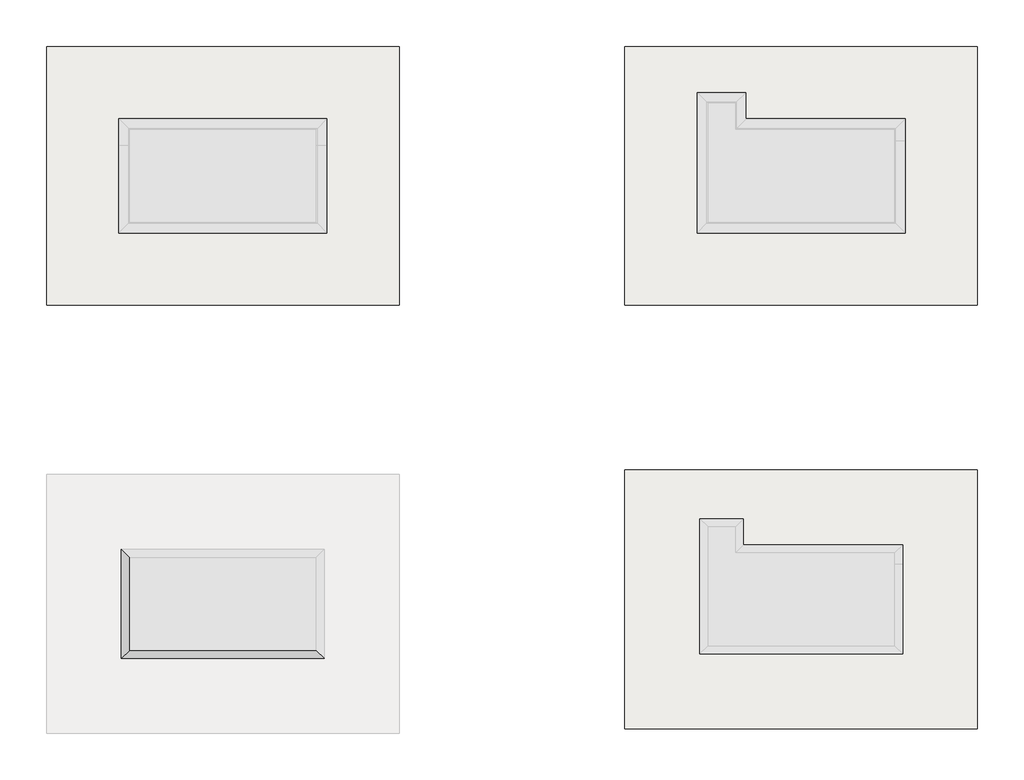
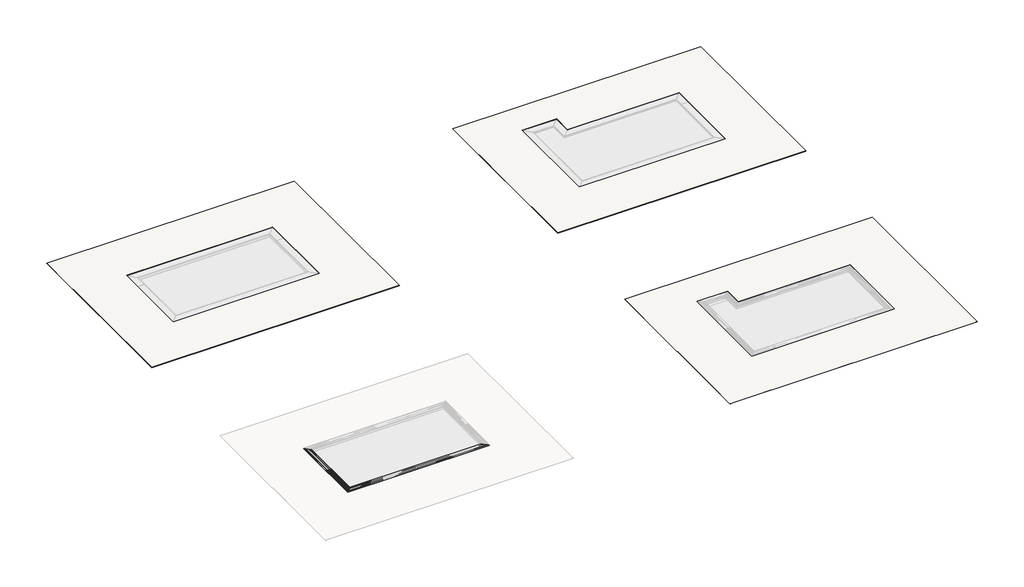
# One storey, part 3 of 8: 13 slabs, 3 proxies.
"""IFC4 building model written with IfcOpenShell, lengths in millimetres."""

from ifc_helpers import new_model, si_unit, frame, origin, place, context, project, spatial, polyline, outline, extrude, faceted_brep, element, save

model = new_model("IFC4")

# Units and contexts
model_context = context("Model", 3, world=origin())
ifc_project = project(units=[si_unit("LENGTHUNIT", "METRE", prefix="MILLI")], contexts=[model_context])

# Site, building, storey
site = spatial("IfcSite", under=ifc_project)
building = spatial("IfcBuilding", under=site)
storey = spatial("IfcBuildingStorey", under=building, Name="EXAGRES_Serie YOHO_Piscinas_ejemplo", Elevation=0.0)

# Proxies
placement = place(None, origin())
element("IfcBuildingElementProxy", 1, Name="Wall Sweeps", at=placement, inside=storey, context=model_context, shape_type="Brep", body=[
    faceted_brep([(-4806.8495187, -26613.0065757, 0.0), (-4819.8495187, -26600.0065757, 0.0), (-4819.8495187, -26600.0065757, 33.0), (-4489.8495187, -26930.0065757, 33.0), (-4489.8495187, -26930.0065757, 21.0), (-4495.8495187, -26924.0065757, 21.0), (-4495.8495187, -26924.0065757, 22.0), (-4499.8495187, -26920.0065757, 22.0), (-4499.8495187, -26920.0065757, 21.0), (-4505.8495187, -26914.0065757, 21.0), (-4505.8495187, -26914.0065757, 22.0), (-4509.8495187, -26910.0065757, 22.0), (-4509.8495187, -26910.0065757, 21.0), (-4515.8495187, -26904.0065757, 21.0), (-4515.8495187, -26904.0065757, 22.0), (-4519.8495187, -26900.0065757, 22.0), (-4519.8495187, -26900.0065757, 21.0), (-4525.8495187, -26894.0065757, 21.0), (-4525.8495187, -26894.0065757, 22.0), (-4529.8495187, -26890.0065757, 22.0), (-4529.8495187, -26890.0065757, 21.0), (-4535.8495187, -26884.0065757, 21.0), (-4535.8495187, -26884.0065757, 22.0), (-4539.8495187, -26880.0065757, 22.0), (-4539.8495187, -26880.0065757, 21.0), (-4545.8495187, -26874.0065757, 21.0), (-4545.8495187, -26874.0065757, 22.0), (-4549.8495187, -26870.0065757, 22.0), (-4549.8495187, -26870.0065757, 21.0), (-4555.8495187, -26864.0065757, 21.0), (-4555.8495187, -26864.0065757, 22.0), (-4559.8495187, -26860.0065757, 22.0), (-4559.8495187, -26860.0065757, 21.0), (-4565.8495187, -26854.0065757, 21.0), (-4565.8495187, -26854.0065757, 22.0), (-4569.8495187, -26850.0065757, 22.0), (-4569.8495187, -26850.0065757, 21.0), (-4575.8495187, -26844.0065757, 21.0), (-4575.8495187, -26844.0065757, 22.0), (-4579.8495187, -26840.0065757, 22.0), (-4579.8495187, -26840.0065757, 21.0), (-4585.8495187, -26834.0065757, 21.0), (-4585.8495187, -26834.0065757, 22.0), (-4589.8495187, -26830.0065757, 22.0), (-4589.8495187, -26830.0065757, 21.0), (-4595.8495187, -26824.0065757, 21.0), (-4595.8495187, -26824.0065757, 22.0), (-4599.8495187, -26820.0065757, 22.0), (-4599.8495187, -26820.0065757, 21.0), (-4605.8495187, -26814.0065757, 21.0), (-4605.8495187, -26814.0065757, 22.0), (-4609.8495187, -26810.0065757, 22.0), (-4609.8495187, -26810.0065757, 21.0), (-4615.8495187, -26804.0065757, 21.0), (-4615.8495187, -26804.0065757, 22.0), (-4619.8495187, -26800.0065757, 22.0), (-4619.8495187, -26800.0065757, 21.0), (-4625.8495187, -26794.0065757, 21.0), (-4625.8495187, -26794.0065757, 22.0), (-4629.8495187, -26790.0065757, 22.0), (-4629.8495187, -26790.0065757, 21.0), (-4635.8495187, -26784.0065757, 21.0), (-4635.8495187, -26784.0065757, 22.0), (-4639.8495187, -26780.0065757, 22.0), (-4639.8495187, -26780.0065757, 21.0), (-4645.8495187, -26774.0065757, 21.0), (-4645.8495187, -26774.0065757, 22.0), (-4649.8495187, -26770.0065757, 22.0), (-4649.8495187, -26770.0065757, 21.0), (-4655.8495187, -26764.0065757, 21.0), (-4655.8495187, -26764.0065757, 22.0), (-4659.8495187, -26760.0065757, 22.0), (-4659.8495187, -26760.0065757, 21.0), (-4665.8495187, -26754.0065757, 21.0), (-4665.8495187, -26754.0065757, 22.0), (-4669.8495187, -26750.0065757, 22.0), (-4669.8495187, -26750.0065757, 21.0), (-4675.8495187, -26744.0065757, 21.0), (-4675.8495187, -26744.0065757, 22.0), (-4679.8495187, -26740.0065757, 22.0), (-4679.8495187, -26740.0065757, 21.0), (-4685.8495187, -26734.0065757, 21.0), (-4685.8495187, -26734.0065757, 22.0), (-4689.8495187, -26730.0065757, 22.0), (-4689.8495187, -26730.0065757, 21.0), (-4695.8495187, -26724.0065757, 21.0), (-4695.8495187, -26724.0065757, 22.0), (-4699.8495187, -26720.0065757, 22.0), (-4699.8495187, -26720.0065757, 21.0), (-4705.8495187, -26714.0065757, 21.0), (-4705.8495187, -26714.0065757, 22.0), (-4709.8495187, -26710.0065757, 22.0), (-4709.8495187, -26710.0065757, 21.0), (-4715.8495187, -26704.0065757, 21.0), (-4715.8495187, -26704.0065757, 22.0), (-4719.8495187, -26700.0065757, 22.0), (-4719.8495187, -26700.0065757, 21.0), (-4725.8495187, -26694.0065757, 21.0), (-4725.8495187, -26694.0065757, 22.0), (-4729.8495187, -26690.0065757, 22.0), (-4729.8495187, -26690.0065757, 21.0), (-4735.8495187, -26684.0065757, 21.0), (-4735.8495187, -26684.0065757, 22.0), (-4739.8495187, -26680.0065757, 22.0), (-4739.8495187, -26680.0065757, 21.0), (-4745.8495187, -26674.0065757, 21.0), (-4745.8495187, -26674.0065757, 22.0), (-4749.8495187, -26670.0065757, 22.0), (-4749.8495187, -26670.0065757, 21.0), (-4755.8495187, -26664.0065757, 21.0), (-4755.8495187, -26664.0065757, 22.0), (-4759.8495187, -26660.0065757, 22.0), (-4759.8495187, -26660.0065757, 21.0), (-4765.8495187, -26654.0065757, 21.0), (-4765.8495187, -26654.0065757, 22.0), (-4769.8495187, -26650.0065757, 22.0), (-4769.8495187, -26650.0065757, 21.0), (-4775.8495187, -26644.0065757, 21.0), (-4775.8495187, -26644.0065757, 22.0), (-4779.8495187, -26640.0065757, 22.0), (-4779.8495187, -26640.0065757, 21.0), (-4785.8495187, -26634.0065757, 21.0), (-4785.8495187, -26634.0065757, 22.0), (-4789.8495187, -26630.0065757, 22.0), (-4789.8495187, -26630.0065757, 21.0), (-4795.8495187, -26624.0065757, 21.0), (-4795.8495187, -26624.0065757, 22.0), (-4799.8495187, -26620.0065757, 22.0), (-4799.8495187, -26620.0065757, 21.0), (-4806.8495187, -26613.0065757, 21.0), (-4806.8495187, -26613.0065757, 14.0), (-4807.8495187, -26612.0065757, 14.0), (-4807.8495187, -26612.0065757, 8.0), (-4806.8495187, -26613.0065757, 8.0), (-12832.8495187, -26613.0065757, 0.0), (-12832.8495187, -26613.0065757, 8.0), (-12831.8495187, -26612.0065757, 8.0), (-12831.8495187, -26612.0065757, 14.0), (-12832.8495187, -26613.0065757, 14.0), (-12832.8495187, -26613.0065757, 21.0), (-12839.8495187, -26620.0065757, 21.0), (-12839.8495187, -26620.0065757, 22.0), (-12843.8495187, -26624.0065757, 22.0), (-12843.8495187, -26624.0065757, 21.0), (-12849.8495187, -26630.0065757, 21.0), (-12849.8495187, -26630.0065757, 22.0), (-12853.8495187, -26634.0065757, 22.0), (-12853.8495187, -26634.0065757, 21.0), (-12859.8495187, -26640.0065757, 21.0), (-12859.8495187, -26640.0065757, 22.0), (-12863.8495187, -26644.0065757, 22.0), (-12863.8495187, -26644.0065757, 21.0), (-12869.8495187, -26650.0065757, 21.0), (-12869.8495187, -26650.0065757, 22.0), (-12873.8495187, -26654.0065757, 22.0), (-12873.8495187, -26654.0065757, 21.0), (-12879.8495187, -26660.0065757, 21.0), (-12879.8495187, -26660.0065757, 22.0), (-12883.8495187, -26664.0065757, 22.0), (-12883.8495187, -26664.0065757, 21.0), (-12889.8495187, -26670.0065757, 21.0), (-12889.8495187, -26670.0065757, 22.0), (-12893.8495187, -26674.0065757, 22.0), (-12893.8495187, -26674.0065757, 21.0), (-12899.8495187, -26680.0065757, 21.0), (-12899.8495187, -26680.0065757, 22.0), (-12903.8495187, -26684.0065757, 22.0), (-12903.8495187, -26684.0065757, 21.0), (-12909.8495187, -26690.0065757, 21.0), (-12909.8495187, -26690.0065757, 22.0), (-12913.8495187, -26694.0065757, 22.0), (-12913.8495187, -26694.0065757, 21.0), (-12919.8495187, -26700.0065757, 21.0), (-12919.8495187, -26700.0065757, 22.0), (-12923.8495187, -26704.0065757, 22.0), (-12923.8495187, -26704.0065757, 21.0), (-12929.8495187, -26710.0065757, 21.0), (-12929.8495187, -26710.0065757, 22.0), (-12933.8495187, -26714.0065757, 22.0), (-12933.8495187, -26714.0065757, 21.0), (-12939.8495187, -26720.0065757, 21.0), (-12939.8495187, -26720.0065757, 22.0), (-12943.8495187, -26724.0065757, 22.0), (-12943.8495187, -26724.0065757, 21.0), (-12949.8495187, -26730.0065757, 21.0), (-12949.8495187, -26730.0065757, 22.0), (-12953.8495187, -26734.0065757, 22.0), (-12953.8495187, -26734.0065757, 21.0), (-12959.8495187, -26740.0065757, 21.0), (-12959.8495187, -26740.0065757, 22.0), (-12963.8495187, -26744.0065757, 22.0), (-12963.8495187, -26744.0065757, 21.0), (-12969.8495187, -26750.0065757, 21.0), (-12969.8495187, -26750.0065757, 22.0), (-12973.8495187, -26754.0065757, 22.0), (-12973.8495187, -26754.0065757, 21.0), (-12979.8495187, -26760.0065757, 21.0), (-12979.8495187, -26760.0065757, 22.0), (-12983.8495187, -26764.0065757, 22.0), (-12983.8495187, -26764.0065757, 21.0), (-12989.8495187, -26770.0065757, 21.0), (-12989.8495187, -26770.0065757, 22.0), (-12993.8495187, -26774.0065757, 22.0), (-12993.8495187, -26774.0065757, 21.0), (-12999.8495187, -26780.0065757, 21.0), (-12999.8495187, -26780.0065757, 22.0), (-13003.8495187, -26784.0065757, 22.0), (-13003.8495187, -26784.0065757, 21.0), (-13009.8495187, -26790.0065757, 21.0), (-13009.8495187, -26790.0065757, 22.0), (-13013.8495187, -26794.0065757, 22.0), (-13013.8495187, -26794.0065757, 21.0), (-13019.8495187, -26800.0065757, 21.0), (-13019.8495187, -26800.0065757, 22.0), (-13023.8495187, -26804.0065757, 22.0), (-13023.8495187, -26804.0065757, 21.0), (-13029.8495187, -26810.0065757, 21.0), (-13029.8495187, -26810.0065757, 22.0), (-13033.8495187, -26814.0065757, 22.0), (-13033.8495187, -26814.0065757, 21.0), (-13039.8495187, -26820.0065757, 21.0), (-13039.8495187, -26820.0065757, 22.0), (-13043.8495187, -26824.0065757, 22.0), (-13043.8495187, -26824.0065757, 21.0), (-13049.8495187, -26830.0065757, 21.0), (-13049.8495187, -26830.0065757, 22.0), (-13053.8495187, -26834.0065757, 22.0), (-13053.8495187, -26834.0065757, 21.0), (-13059.8495187, -26840.0065757, 21.0), (-13059.8495187, -26840.0065757, 22.0), (-13063.8495187, -26844.0065757, 22.0), (-13063.8495187, -26844.0065757, 21.0), (-13069.8495187, -26850.0065757, 21.0), (-13069.8495187, -26850.0065757, 22.0), (-13073.8495187, -26854.0065757, 22.0), (-13073.8495187, -26854.0065757, 21.0), (-13079.8495187, -26860.0065757, 21.0), (-13079.8495187, -26860.0065757, 22.0), (-13083.8495187, -26864.0065757, 22.0), (-13083.8495187, -26864.0065757, 21.0), (-13089.8495187, -26870.0065757, 21.0), (-13089.8495187, -26870.0065757, 22.0), (-13093.8495187, -26874.0065757, 22.0), (-13093.8495187, -26874.0065757, 21.0), (-13099.8495187, -26880.0065757, 21.0), (-13099.8495187, -26880.0065757, 22.0), (-13103.8495187, -26884.0065757, 22.0), (-13103.8495187, -26884.0065757, 21.0), (-13109.8495187, -26890.0065757, 21.0), (-13109.8495187, -26890.0065757, 22.0), (-13113.8495187, -26894.0065757, 22.0), (-13113.8495187, -26894.0065757, 21.0), (-13119.8495187, -26900.0065757, 21.0), (-13119.8495187, -26900.0065757, 22.0), (-13123.8495187, -26904.0065757, 22.0), (-13123.8495187, -26904.0065757, 21.0), (-13129.8495187, -26910.0065757, 21.0), (-13129.8495187, -26910.0065757, 22.0), (-13133.8495187, -26914.0065757, 22.0), (-13133.8495187, -26914.0065757, 21.0), (-13139.8495187, -26920.0065757, 21.0), (-13139.8495187, -26920.0065757, 22.0), (-13143.8495187, -26924.0065757, 22.0), (-13143.8495187, -26924.0065757, 21.0), (-13149.8495187, -26930.0065757, 21.0), (-13149.8495187, -26930.0065757, 33.0), (-12819.8495187, -26600.0065757, 33.0), (-12819.8495187, -26600.0065757, 0.0)], [[[0, 1, 2, 3, 4, 5, 6, 7, 8, 9, 10, 11, 12, 13, 14, 15, 16, 17, 18, 19, 20, 21, 22, 23, 24, 25, 26, 27, 28, 29, 30, 31, 32, 33, 34, 35, 36, 37, 38, 39, 40, 41, 42, 43, 44, 45, 46, 47, 48, 49, 50, 51, 52, 53, 54, 55, 56, 57, 58, 59, 60, 61, 62, 63, 64, 65, 66, 67, 68, 69, 70, 71, 72, 73, 74, 75, 76, 77, 78, 79, 80, 81, 82, 83, 84, 85, 86, 87, 88, 89, 90, 91, 92, 93, 94, 95, 96, 97, 98, 99, 100, 101, 102, 103, 104, 105, 106, 107, 108, 109, 110, 111, 112, 113, 114, 115, 116, 117, 118, 119, 120, 121, 122, 123, 124, 125, 126, 127, 128, 129, 130, 131, 132, 133]], [[134, 135, 136, 137, 138, 139, 140, 141, 142, 143, 144, 145, 146, 147, 148, 149, 150, 151, 152, 153, 154, 155, 156, 157, 158, 159, 160, 161, 162, 163, 164, 165, 166, 167, 168, 169, 170, 171, 172, 173, 174, 175, 176, 177, 178, 179, 180, 181, 182, 183, 184, 185, 186, 187, 188, 189, 190, 191, 192, 193, 194, 195, 196, 197, 198, 199, 200, 201, 202, 203, 204, 205, 206, 207, 208, 209, 210, 211, 212, 213, 214, 215, 216, 217, 218, 219, 220, 221, 222, 223, 224, 225, 226, 227, 228, 229, 230, 231, 232, 233, 234, 235, 236, 237, 238, 239, 240, 241, 242, 243, 244, 245, 246, 247, 248, 249, 250, 251, 252, 253, 254, 255, 256, 257, 258, 259, 260, 261, 262, 263, 264, 265, 266, 267]], [[1, 0, 134, 267]], [[2, 1, 267, 266]], [[3, 2, 266, 265]], [[4, 3, 265, 264]], [[5, 4, 264, 263]], [[6, 5, 263, 262]], [[7, 6, 262, 261]], [[8, 7, 261, 260]], [[9, 8, 260, 259]], [[10, 9, 259, 258]], [[11, 10, 258, 257]], [[12, 11, 257, 256]], [[13, 12, 256, 255]], [[14, 13, 255, 254]], [[15, 14, 254, 253]], [[16, 15, 253, 252]], [[17, 16, 252, 251]], [[18, 17, 251, 250]], [[19, 18, 250, 249]], [[20, 19, 249, 248]], [[21, 20, 248, 247]], [[22, 21, 247, 246]], [[23, 22, 246, 245]], [[24, 23, 245, 244]], [[25, 24, 244, 243]], [[26, 25, 243, 242]], [[27, 26, 242, 241]], [[28, 27, 241, 240]], [[29, 28, 240, 239]], [[30, 29, 239, 238]], [[31, 30, 238, 237]], [[32, 31, 237, 236]], [[33, 32, 236, 235]], [[34, 33, 235, 234]], [[35, 34, 234, 233]], [[36, 35, 233, 232]], [[37, 36, 232, 231]], [[38, 37, 231, 230]], [[39, 38, 230, 229]], [[40, 39, 229, 228]], [[41, 40, 228, 227]], [[42, 41, 227, 226]], [[43, 42, 226, 225]], [[44, 43, 225, 224]], [[45, 44, 224, 223]], [[46, 45, 223, 222]], [[47, 46, 222, 221]], [[48, 47, 221, 220]], [[49, 48, 220, 219]], [[50, 49, 219, 218]], [[51, 50, 218, 217]], [[52, 51, 217, 216]], [[53, 52, 216, 215]], [[54, 53, 215, 214]], [[55, 54, 214, 213]], [[56, 55, 213, 212]], [[57, 56, 212, 211]], [[58, 57, 211, 210]], [[59, 58, 210, 209]], [[60, 59, 209, 208]], [[61, 60, 208, 207]], [[62, 61, 207, 206]], [[63, 62, 206, 205]], [[64, 63, 205, 204]], [[65, 64, 204, 203]], [[66, 65, 203, 202]], [[67, 66, 202, 201]], [[68, 67, 201, 200]], [[69, 68, 200, 199]], [[70, 69, 199, 198]], [[71, 70, 198, 197]], [[72, 71, 197, 196]], [[73, 72, 196, 195]], [[74, 73, 195, 194]], [[75, 74, 194, 193]], [[76, 75, 193, 192]], [[77, 76, 192, 191]], [[78, 77, 191, 190]], [[79, 78, 190, 189]], [[80, 79, 189, 188]], [[81, 80, 188, 187]], [[82, 81, 187, 186]], [[83, 82, 186, 185]], [[84, 83, 185, 184]], [[85, 84, 184, 183]], [[86, 85, 183, 182]], [[87, 86, 182, 181]], [[88, 87, 181, 180]], [[89, 88, 180, 179]], [[90, 89, 179, 178]], [[91, 90, 178, 177]], [[92, 91, 177, 176]], [[93, 92, 176, 175]], [[94, 93, 175, 174]], [[95, 94, 174, 173]], [[96, 95, 173, 172]], [[97, 96, 172, 171]], [[98, 97, 171, 170]], [[99, 98, 170, 169]], [[100, 99, 169, 168]], [[101, 100, 168, 167]], [[102, 101, 167, 166]], [[103, 102, 166, 165]], [[104, 103, 165, 164]], [[105, 104, 164, 163]], [[106, 105, 163, 162]], [[107, 106, 162, 161]], [[108, 107, 161, 160]], [[109, 108, 160, 159]], [[110, 109, 159, 158]], [[111, 110, 158, 157]], [[112, 111, 157, 156]], [[113, 112, 156, 155]], [[114, 113, 155, 154]], [[115, 114, 154, 153]], [[116, 115, 153, 152]], [[117, 116, 152, 151]], [[118, 117, 151, 150]], [[119, 118, 150, 149]], [[120, 119, 149, 148]], [[121, 120, 148, 147]], [[122, 121, 147, 146]], [[123, 122, 146, 145]], [[124, 123, 145, 144]], [[125, 124, 144, 143]], [[126, 125, 143, 142]], [[127, 126, 142, 141]], [[128, 127, 141, 140]], [[129, 128, 140, 139]], [[130, 129, 139, 138]], [[131, 130, 138, 137]], [[132, 131, 137, 136]], [[133, 132, 136, 135]], [[0, 133, 135, 134]]]),
])
element("IfcBuildingElementProxy", 2, Name="Wall Sweeps", at=placement, inside=storey, context=model_context, shape_type="Brep", body=[
    faceted_brep([(-12832.8495187, -26613.0065757, 0.0), (-12819.8495187, -26600.0065757, 0.0), (-12819.8495187, -26600.0065757, 33.0), (-13149.8495187, -26930.0065757, 33.0), (-13149.8495187, -26930.0065757, 21.0), (-13143.8495187, -26924.0065757, 21.0), (-13143.8495187, -26924.0065757, 22.0), (-13139.8495187, -26920.0065757, 22.0), (-13139.8495187, -26920.0065757, 21.0), (-13133.8495187, -26914.0065757, 21.0), (-13133.8495187, -26914.0065757, 22.0), (-13129.8495187, -26910.0065757, 22.0), (-13129.8495187, -26910.0065757, 21.0), (-13123.8495187, -26904.0065757, 21.0), (-13123.8495187, -26904.0065757, 22.0), (-13119.8495187, -26900.0065757, 22.0), (-13119.8495187, -26900.0065757, 21.0), (-13113.8495187, -26894.0065757, 21.0), (-13113.8495187, -26894.0065757, 22.0), (-13109.8495187, -26890.0065757, 22.0), (-13109.8495187, -26890.0065757, 21.0), (-13103.8495187, -26884.0065757, 21.0), (-13103.8495187, -26884.0065757, 22.0), (-13099.8495187, -26880.0065757, 22.0), (-13099.8495187, -26880.0065757, 21.0), (-13093.8495187, -26874.0065757, 21.0), (-13093.8495187, -26874.0065757, 22.0), (-13089.8495187, -26870.0065757, 22.0), (-13089.8495187, -26870.0065757, 21.0), (-13083.8495187, -26864.0065757, 21.0), (-13083.8495187, -26864.0065757, 22.0), (-13079.8495187, -26860.0065757, 22.0), (-13079.8495187, -26860.0065757, 21.0), (-13073.8495187, -26854.0065757, 21.0), (-13073.8495187, -26854.0065757, 22.0), (-13069.8495187, -26850.0065757, 22.0), (-13069.8495187, -26850.0065757, 21.0), (-13063.8495187, -26844.0065757, 21.0), (-13063.8495187, -26844.0065757, 22.0), (-13059.8495187, -26840.0065757, 22.0), (-13059.8495187, -26840.0065757, 21.0), (-13053.8495187, -26834.0065757, 21.0), (-13053.8495187, -26834.0065757, 22.0), (-13049.8495187, -26830.0065757, 22.0), (-13049.8495187, -26830.0065757, 21.0), (-13043.8495187, -26824.0065757, 21.0), (-13043.8495187, -26824.0065757, 22.0), (-13039.8495187, -26820.0065757, 22.0), (-13039.8495187, -26820.0065757, 21.0), (-13033.8495187, -26814.0065757, 21.0), (-13033.8495187, -26814.0065757, 22.0), (-13029.8495187, -26810.0065757, 22.0), (-13029.8495187, -26810.0065757, 21.0), (-13023.8495187, -26804.0065757, 21.0), (-13023.8495187, -26804.0065757, 22.0), (-13019.8495187, -26800.0065757, 22.0), (-13019.8495187, -26800.0065757, 21.0), (-13013.8495187, -26794.0065757, 21.0), (-13013.8495187, -26794.0065757, 22.0), (-13009.8495187, -26790.0065757, 22.0), (-13009.8495187, -26790.0065757, 21.0), (-13003.8495187, -26784.0065757, 21.0), (-13003.8495187, -26784.0065757, 22.0), (-12999.8495187, -26780.0065757, 22.0), (-12999.8495187, -26780.0065757, 21.0), (-12993.8495187, -26774.0065757, 21.0), (-12993.8495187, -26774.0065757, 22.0), (-12989.8495187, -26770.0065757, 22.0), (-12989.8495187, -26770.0065757, 21.0), (-12983.8495187, -26764.0065757, 21.0), (-12983.8495187, -26764.0065757, 22.0), (-12979.8495187, -26760.0065757, 22.0), (-12979.8495187, -26760.0065757, 21.0), (-12973.8495187, -26754.0065757, 21.0), (-12973.8495187, -26754.0065757, 22.0), (-12969.8495187, -26750.0065757, 22.0), (-12969.8495187, -26750.0065757, 21.0), (-12963.8495187, -26744.0065757, 21.0), (-12963.8495187, -26744.0065757, 22.0), (-12959.8495187, -26740.0065757, 22.0), (-12959.8495187, -26740.0065757, 21.0), (-12953.8495187, -26734.0065757, 21.0), (-12953.8495187, -26734.0065757, 22.0), (-12949.8495187, -26730.0065757, 22.0), (-12949.8495187, -26730.0065757, 21.0), (-12943.8495187, -26724.0065757, 21.0), (-12943.8495187, -26724.0065757, 22.0), (-12939.8495187, -26720.0065757, 22.0), (-12939.8495187, -26720.0065757, 21.0), (-12933.8495187, -26714.0065757, 21.0), (-12933.8495187, -26714.0065757, 22.0), (-12929.8495187, -26710.0065757, 22.0), (-12929.8495187, -26710.0065757, 21.0), (-12923.8495187, -26704.0065757, 21.0), (-12923.8495187, -26704.0065757, 22.0), (-12919.8495187, -26700.0065757, 22.0), (-12919.8495187, -26700.0065757, 21.0), (-12913.8495187, -26694.0065757, 21.0), (-12913.8495187, -26694.0065757, 22.0), (-12909.8495187, -26690.0065757, 22.0), (-12909.8495187, -26690.0065757, 21.0), (-12903.8495187, -26684.0065757, 21.0), (-12903.8495187, -26684.0065757, 22.0), (-12899.8495187, -26680.0065757, 22.0), (-12899.8495187, -26680.0065757, 21.0), (-12893.8495187, -26674.0065757, 21.0), (-12893.8495187, -26674.0065757, 22.0), (-12889.8495187, -26670.0065757, 22.0), (-12889.8495187, -26670.0065757, 21.0), (-12883.8495187, -26664.0065757, 21.0), (-12883.8495187, -26664.0065757, 22.0), (-12879.8495187, -26660.0065757, 22.0), (-12879.8495187, -26660.0065757, 21.0), (-12873.8495187, -26654.0065757, 21.0), (-12873.8495187, -26654.0065757, 22.0), (-12869.8495187, -26650.0065757, 22.0), (-12869.8495187, -26650.0065757, 21.0), (-12863.8495187, -26644.0065757, 21.0), (-12863.8495187, -26644.0065757, 22.0), (-12859.8495187, -26640.0065757, 22.0), (-12859.8495187, -26640.0065757, 21.0), (-12853.8495187, -26634.0065757, 21.0), (-12853.8495187, -26634.0065757, 22.0), (-12849.8495187, -26630.0065757, 22.0), (-12849.8495187, -26630.0065757, 21.0), (-12843.8495187, -26624.0065757, 21.0), (-12843.8495187, -26624.0065757, 22.0), (-12839.8495187, -26620.0065757, 22.0), (-12839.8495187, -26620.0065757, 21.0), (-12832.8495187, -26613.0065757, 21.0), (-12832.8495187, -26613.0065757, 14.0), (-12831.8495187, -26612.0065757, 14.0), (-12831.8495187, -26612.0065757, 8.0), (-12832.8495187, -26613.0065757, 8.0), (-12832.8495187, -22587.0065757, 0.0), (-12832.8495187, -22587.0065757, 8.0), (-12831.8495187, -22588.0065757, 8.0), (-12831.8495187, -22588.0065757, 14.0), (-12832.8495187, -22587.0065757, 14.0), (-12832.8495187, -22587.0065757, 21.0), (-12839.8495187, -22580.0065757, 21.0), (-12839.8495187, -22580.0065757, 22.0), (-12843.8495187, -22576.0065757, 22.0), (-12843.8495187, -22576.0065757, 21.0), (-12849.8495187, -22570.0065757, 21.0), (-12849.8495187, -22570.0065757, 22.0), (-12853.8495187, -22566.0065757, 22.0), (-12853.8495187, -22566.0065757, 21.0), (-12859.8495187, -22560.0065757, 21.0), (-12859.8495187, -22560.0065757, 22.0), (-12863.8495187, -22556.0065757, 22.0), (-12863.8495187, -22556.0065757, 21.0), (-12869.8495187, -22550.0065757, 21.0), (-12869.8495187, -22550.0065757, 22.0), (-12873.8495187, -22546.0065757, 22.0), (-12873.8495187, -22546.0065757, 21.0), (-12879.8495187, -22540.0065757, 21.0), (-12879.8495187, -22540.0065757, 22.0), (-12883.8495187, -22536.0065757, 22.0), (-12883.8495187, -22536.0065757, 21.0), (-12889.8495187, -22530.0065757, 21.0), (-12889.8495187, -22530.0065757, 22.0), (-12893.8495187, -22526.0065757, 22.0), (-12893.8495187, -22526.0065757, 21.0), (-12899.8495187, -22520.0065757, 21.0), (-12899.8495187, -22520.0065757, 22.0), (-12903.8495187, -22516.0065757, 22.0), (-12903.8495187, -22516.0065757, 21.0), (-12909.8495187, -22510.0065757, 21.0), (-12909.8495187, -22510.0065757, 22.0), (-12913.8495187, -22506.0065757, 22.0), (-12913.8495187, -22506.0065757, 21.0), (-12919.8495187, -22500.0065757, 21.0), (-12919.8495187, -22500.0065757, 22.0), (-12923.8495187, -22496.0065757, 22.0), (-12923.8495187, -22496.0065757, 21.0), (-12929.8495187, -22490.0065757, 21.0), (-12929.8495187, -22490.0065757, 22.0), (-12933.8495187, -22486.0065757, 22.0), (-12933.8495187, -22486.0065757, 21.0), (-12939.8495187, -22480.0065757, 21.0), (-12939.8495187, -22480.0065757, 22.0), (-12943.8495187, -22476.0065757, 22.0), (-12943.8495187, -22476.0065757, 21.0), (-12949.8495187, -22470.0065757, 21.0), (-12949.8495187, -22470.0065757, 22.0), (-12953.8495187, -22466.0065757, 22.0), (-12953.8495187, -22466.0065757, 21.0), (-12959.8495187, -22460.0065757, 21.0), (-12959.8495187, -22460.0065757, 22.0), (-12963.8495187, -22456.0065757, 22.0), (-12963.8495187, -22456.0065757, 21.0), (-12969.8495187, -22450.0065757, 21.0), (-12969.8495187, -22450.0065757, 22.0), (-12973.8495187, -22446.0065757, 22.0), (-12973.8495187, -22446.0065757, 21.0), (-12979.8495187, -22440.0065757, 21.0), (-12979.8495187, -22440.0065757, 22.0), (-12983.8495187, -22436.0065757, 22.0), (-12983.8495187, -22436.0065757, 21.0), (-12989.8495187, -22430.0065757, 21.0), (-12989.8495187, -22430.0065757, 22.0), (-12993.8495187, -22426.0065757, 22.0), (-12993.8495187, -22426.0065757, 21.0), (-12999.8495187, -22420.0065757, 21.0), (-12999.8495187, -22420.0065757, 22.0), (-13003.8495187, -22416.0065757, 22.0), (-13003.8495187, -22416.0065757, 21.0), (-13009.8495187, -22410.0065757, 21.0), (-13009.8495187, -22410.0065757, 22.0), (-13013.8495187, -22406.0065757, 22.0), (-13013.8495187, -22406.0065757, 21.0), (-13019.8495187, -22400.0065757, 21.0), (-13019.8495187, -22400.0065757, 22.0), (-13023.8495187, -22396.0065757, 22.0), (-13023.8495187, -22396.0065757, 21.0), (-13029.8495187, -22390.0065757, 21.0), (-13029.8495187, -22390.0065757, 22.0), (-13033.8495187, -22386.0065757, 22.0), (-13033.8495187, -22386.0065757, 21.0), (-13039.8495187, -22380.0065757, 21.0), (-13039.8495187, -22380.0065757, 22.0), (-13043.8495187, -22376.0065757, 22.0), (-13043.8495187, -22376.0065757, 21.0), (-13049.8495187, -22370.0065757, 21.0), (-13049.8495187, -22370.0065757, 22.0), (-13053.8495187, -22366.0065757, 22.0), (-13053.8495187, -22366.0065757, 21.0), (-13059.8495187, -22360.0065757, 21.0), (-13059.8495187, -22360.0065757, 22.0), (-13063.8495187, -22356.0065757, 22.0), (-13063.8495187, -22356.0065757, 21.0), (-13069.8495187, -22350.0065757, 21.0), (-13069.8495187, -22350.0065757, 22.0), (-13073.8495187, -22346.0065757, 22.0), (-13073.8495187, -22346.0065757, 21.0), (-13079.8495187, -22340.0065757, 21.0), (-13079.8495187, -22340.0065757, 22.0), (-13083.8495187, -22336.0065757, 22.0), (-13083.8495187, -22336.0065757, 21.0), (-13089.8495187, -22330.0065757, 21.0), (-13089.8495187, -22330.0065757, 22.0), (-13093.8495187, -22326.0065757, 22.0), (-13093.8495187, -22326.0065757, 21.0), (-13099.8495187, -22320.0065757, 21.0), (-13099.8495187, -22320.0065757, 22.0), (-13103.8495187, -22316.0065757, 22.0), (-13103.8495187, -22316.0065757, 21.0), (-13109.8495187, -22310.0065757, 21.0), (-13109.8495187, -22310.0065757, 22.0), (-13113.8495187, -22306.0065757, 22.0), (-13113.8495187, -22306.0065757, 21.0), (-13119.8495187, -22300.0065757, 21.0), (-13119.8495187, -22300.0065757, 22.0), (-13123.8495187, -22296.0065757, 22.0), (-13123.8495187, -22296.0065757, 21.0), (-13129.8495187, -22290.0065757, 21.0), (-13129.8495187, -22290.0065757, 22.0), (-13133.8495187, -22286.0065757, 22.0), (-13133.8495187, -22286.0065757, 21.0), (-13139.8495187, -22280.0065757, 21.0), (-13139.8495187, -22280.0065757, 22.0), (-13143.8495187, -22276.0065757, 22.0), (-13143.8495187, -22276.0065757, 21.0), (-13149.8495187, -22270.0065757, 21.0), (-13149.8495187, -22270.0065757, 33.0), (-12819.8495187, -22600.0065757, 33.0), (-12819.8495187, -22600.0065757, 0.0)], [[[0, 1, 2, 3, 4, 5, 6, 7, 8, 9, 10, 11, 12, 13, 14, 15, 16, 17, 18, 19, 20, 21, 22, 23, 24, 25, 26, 27, 28, 29, 30, 31, 32, 33, 34, 35, 36, 37, 38, 39, 40, 41, 42, 43, 44, 45, 46, 47, 48, 49, 50, 51, 52, 53, 54, 55, 56, 57, 58, 59, 60, 61, 62, 63, 64, 65, 66, 67, 68, 69, 70, 71, 72, 73, 74, 75, 76, 77, 78, 79, 80, 81, 82, 83, 84, 85, 86, 87, 88, 89, 90, 91, 92, 93, 94, 95, 96, 97, 98, 99, 100, 101, 102, 103, 104, 105, 106, 107, 108, 109, 110, 111, 112, 113, 114, 115, 116, 117, 118, 119, 120, 121, 122, 123, 124, 125, 126, 127, 128, 129, 130, 131, 132, 133]], [[134, 135, 136, 137, 138, 139, 140, 141, 142, 143, 144, 145, 146, 147, 148, 149, 150, 151, 152, 153, 154, 155, 156, 157, 158, 159, 160, 161, 162, 163, 164, 165, 166, 167, 168, 169, 170, 171, 172, 173, 174, 175, 176, 177, 178, 179, 180, 181, 182, 183, 184, 185, 186, 187, 188, 189, 190, 191, 192, 193, 194, 195, 196, 197, 198, 199, 200, 201, 202, 203, 204, 205, 206, 207, 208, 209, 210, 211, 212, 213, 214, 215, 216, 217, 218, 219, 220, 221, 222, 223, 224, 225, 226, 227, 228, 229, 230, 231, 232, 233, 234, 235, 236, 237, 238, 239, 240, 241, 242, 243, 244, 245, 246, 247, 248, 249, 250, 251, 252, 253, 254, 255, 256, 257, 258, 259, 260, 261, 262, 263, 264, 265, 266, 267]], [[1, 0, 134, 267]], [[2, 1, 267, 266]], [[3, 2, 266, 265]], [[4, 3, 265, 264]], [[5, 4, 264, 263]], [[6, 5, 263, 262]], [[7, 6, 262, 261]], [[8, 7, 261, 260]], [[9, 8, 260, 259]], [[10, 9, 259, 258]], [[11, 10, 258, 257]], [[12, 11, 257, 256]], [[13, 12, 256, 255]], [[14, 13, 255, 254]], [[15, 14, 254, 253]], [[16, 15, 253, 252]], [[17, 16, 252, 251]], [[18, 17, 251, 250]], [[19, 18, 250, 249]], [[20, 19, 249, 248]], [[21, 20, 248, 247]], [[22, 21, 247, 246]], [[23, 22, 246, 245]], [[24, 23, 245, 244]], [[25, 24, 244, 243]], [[26, 25, 243, 242]], [[27, 26, 242, 241]], [[28, 27, 241, 240]], [[29, 28, 240, 239]], [[30, 29, 239, 238]], [[31, 30, 238, 237]], [[32, 31, 237, 236]], [[33, 32, 236, 235]], [[34, 33, 235, 234]], [[35, 34, 234, 233]], [[36, 35, 233, 232]], [[37, 36, 232, 231]], [[38, 37, 231, 230]], [[39, 38, 230, 229]], [[40, 39, 229, 228]], [[41, 40, 228, 227]], [[42, 41, 227, 226]], [[43, 42, 226, 225]], [[44, 43, 225, 224]], [[45, 44, 224, 223]], [[46, 45, 223, 222]], [[47, 46, 222, 221]], [[48, 47, 221, 220]], [[49, 48, 220, 219]], [[50, 49, 219, 218]], [[51, 50, 218, 217]], [[52, 51, 217, 216]], [[53, 52, 216, 215]], [[54, 53, 215, 214]], [[55, 54, 214, 213]], [[56, 55, 213, 212]], [[57, 56, 212, 211]], [[58, 57, 211, 210]], [[59, 58, 210, 209]], [[60, 59, 209, 208]], [[61, 60, 208, 207]], [[62, 61, 207, 206]], [[63, 62, 206, 205]], [[64, 63, 205, 204]], [[65, 64, 204, 203]], [[66, 65, 203, 202]], [[67, 66, 202, 201]], [[68, 67, 201, 200]], [[69, 68, 200, 199]], [[70, 69, 199, 198]], [[71, 70, 198, 197]], [[72, 71, 197, 196]], [[73, 72, 196, 195]], [[74, 73, 195, 194]], [[75, 74, 194, 193]], [[76, 75, 193, 192]], [[77, 76, 192, 191]], [[78, 77, 191, 190]], [[79, 78, 190, 189]], [[80, 79, 189, 188]], [[81, 80, 188, 187]], [[82, 81, 187, 186]], [[83, 82, 186, 185]], [[84, 83, 185, 184]], [[85, 84, 184, 183]], [[86, 85, 183, 182]], [[87, 86, 182, 181]], [[88, 87, 181, 180]], [[89, 88, 180, 179]], [[90, 89, 179, 178]], [[91, 90, 178, 177]], [[92, 91, 177, 176]], [[93, 92, 176, 175]], [[94, 93, 175, 174]], [[95, 94, 174, 173]], [[96, 95, 173, 172]], [[97, 96, 172, 171]], [[98, 97, 171, 170]], [[99, 98, 170, 169]], [[100, 99, 169, 168]], [[101, 100, 168, 167]], [[102, 101, 167, 166]], [[103, 102, 166, 165]], [[104, 103, 165, 164]], [[105, 104, 164, 163]], [[106, 105, 163, 162]], [[107, 106, 162, 161]], [[108, 107, 161, 160]], [[109, 108, 160, 159]], [[110, 109, 159, 158]], [[111, 110, 158, 157]], [[112, 111, 157, 156]], [[113, 112, 156, 155]], [[114, 113, 155, 154]], [[115, 114, 154, 153]], [[116, 115, 153, 152]], [[117, 116, 152, 151]], [[118, 117, 151, 150]], [[119, 118, 150, 149]], [[120, 119, 149, 148]], [[121, 120, 148, 147]], [[122, 121, 147, 146]], [[123, 122, 146, 145]], [[124, 123, 145, 144]], [[125, 124, 144, 143]], [[126, 125, 143, 142]], [[127, 126, 142, 141]], [[128, 127, 141, 140]], [[129, 128, 140, 139]], [[130, 129, 139, 138]], [[131, 130, 138, 137]], [[132, 131, 137, 136]], [[133, 132, 136, 135]], [[0, 133, 135, 134]]]),
])
element("IfcBuildingElementProxy", 3, Name="Wall Sweeps", at=placement, inside=storey, context=model_context, shape_type="Brep", body=[
    faceted_brep([(-13139.8495187, -26920.0065757, -181.26), (-13044.8495187, -26825.0065757, -181.26), (-12834.8495187, -26615.0065757, -181.26), (-12834.8495187, -26615.0065757, 0.0), (-12834.8495187, -26615.0065757, 18.74), (-13139.8495187, -26920.0065757, 18.74), (-13139.8495187, -22280.0065757, -181.26), (-13139.8495187, -22280.0065757, 18.74), (-12834.8495187, -22585.0065757, 18.74), (-12834.8495187, -22585.0065757, -181.26), (-12834.8495187, -22600.0065757, -181.26)], [[[0, 1, 2, 3, 4, 5]], [[6, 7, 8, 9]], [[4, 3, 2, 10, 9, 8]], [[2, 1, 0, 6, 9, 10]], [[5, 4, 8, 7]], [[0, 5, 7, 6]]]),
])

# Slabs
element("IfcSlab", 4, ObjectType="Exagres_Yoho_Oak_Base_24,5x150_C3_Rect", at=placement, inside=storey, context=model_context, shape_type="SweptSolid", body=[
    extrude(outline(polyline([(-1289.848406, -776.1575625), (-1289.848406, -11836.1597881), (-16349.8506315, -11836.1597881), (-16349.8506315, -776.1575625), (-1289.848406, -776.1575625)]), holes=[polyline([(-4378.1945923, -3864.5037488), (-13261.5044452, -3864.5037488), (-13261.5044452, -8747.8136018), (-4378.1945923, -8747.8136018), (-4378.1945923, -3864.5037488)])]), frame((0.0, 0.0, 19.0), z_axis=(0.0, 0.0, 1.0), x_axis=(1.0, 0.0, 0.0)), (0.0, 0.0, 1.0), 11.0),
])
element("IfcSlab", 5, ObjectType="Exagres_Piscina_Azul_Base_12x24,5_C3", at=placement, inside=storey, context=model_context, shape_type="Brep", body=[
    faceted_brep([(20110.151594, -4076.1575625, -1509.0), (20110.151594, -4076.1575625, -1500.0), (20110.151594, -8536.1597881, -1500.0), (20110.151594, -8536.1597881, -1509.0), (17880.1504813, -8536.1597881, -1500.0), (13880.1504813, -8536.1597881, -500.0), (11650.1493685, -8536.1597881, -500.0), (11650.1493685, -8536.1597881, -509.0), (13880.1504813, -8536.1597881, -509.0), (17880.1504813, -8536.1597881, -1509.0), (11650.1493685, -4076.1575625, -500.0), (11650.1493685, -4076.1575625, -509.0), (13880.1504813, -4076.1575625, -500.0), (17880.1504813, -4076.1575625, -1500.0), (17880.1504813, -4076.1575625, -1509.0), (13880.1504813, -4076.1575625, -509.0), (13880.1504813, -8531.1586753, -500.0), (13880.1504813, -8306.1586753, -500.0), (13880.1504813, -4306.1586753, -500.0), (13880.1504813, -4081.1586753, -500.0), (13880.1504813, -4081.1586753, -509.0), (13880.1504813, -4306.1586753, -509.0), (13880.1504813, -8306.1586753, -509.0), (13880.1504813, -8531.1586753, -509.0), (17880.1504813, -4081.1586753, -1500.0), (17880.1504813, -4306.1586753, -1500.0), (17880.1504813, -4306.1586753, -1509.0), (17880.1504813, -4081.1586753, -1509.0)], [[[0, 1, 2, 3]], [[3, 2, 4, 5, 6, 7, 8, 9]], [[7, 6, 10, 11]], [[11, 10, 12, 13, 1, 0, 14, 15]], [[10, 6, 5, 16, 17, 18, 19, 12]], [[11, 15, 20, 21, 22, 23, 8, 7]], [[2, 1, 13, 24, 25, 4]], [[3, 9, 26, 27, 14, 0]], [[5, 4, 25, 24, 13, 12, 19, 18, 17, 16]], [[8, 23, 22, 21, 20, 15, 14, 27, 26, 9]]]),
])
element("IfcSlab", 6, ObjectType="Exagres_Yoho_Maple_Base_24,5x150_C3_Rect", at=placement, inside=storey, context=model_context, shape_type="SweptSolid", body=[
    extrude(outline(polyline([(23410.151594, -776.1575625), (23410.151594, -11836.1597881), (8350.1493685, -11836.1597881), (8350.1493685, -776.1575625), (23410.151594, -776.1575625)]), holes=[polyline([(20321.8054077, -3864.5037488), (13521.8054077, -3864.5037488), (13521.8054077, -2744.5037488), (11438.4955548, -2744.5037488), (11438.4955548, -8747.8136018), (20321.8054077, -8747.8136018), (20321.8054077, -3864.5037488)])]), frame((0.0, 0.0, 19.0), z_axis=(0.0, 0.0, 1.0), x_axis=(1.0, 0.0, 0.0)), (0.0, 0.0, 1.0), 11.0),
])
element("IfcSlab", 7, ObjectType="Exagres_Piscina_Azul_Base_12x24,5_C1", at=placement, inside=storey, context=model_context, shape_type="Brep", body=[
    faceted_brep([(11855.1504813, -4026.1586753, -409.0), (11880.1504813, -4026.1586753, -409.0), (13080.1504813, -4026.1586753, -409.0), (13080.1504813, -4282.2586753, -409.0), (11880.1504813, -4282.2586753, -409.0), (11855.1504813, -4282.2586753, -409.0), (13080.1504813, -4026.1586753, -400.0), (11880.1504813, -4026.1586753, -400.0), (11855.1504813, -4026.1586753, -400.0), (11855.1504813, -4282.2586753, -400.0), (13080.1504813, -4282.2586753, -400.0), (11855.1504813, -4282.2586753, -406.4)], [[[0, 1, 2, 3, 4, 5]], [[6, 7, 8, 9, 10]], [[2, 6, 10, 3]], [[8, 0, 5, 11, 9]], [[2, 1, 0, 8, 7, 6]], [[5, 4, 3, 10, 9, 11]]]),
])
element("IfcSlab", 8, ObjectType="Exagres_Piscina_Azul_Base_12x24,5_C1", at=placement, inside=storey, context=model_context, shape_type="Brep", body=[
    faceted_brep([(11855.1504813, -3726.1586753, -309.0), (11880.1504813, -3726.1586753, -309.0), (13080.1504813, -3726.1586753, -309.0), (13105.1504813, -3726.1586753, -309.0), (13105.1504813, -4002.2586753, -309.0), (13080.1504813, -4002.2586753, -309.0), (11880.1504813, -4002.2586753, -309.0), (11855.1504813, -4002.2586753, -309.0), (13105.1504813, -3726.1586753, -300.0), (13080.1504813, -3726.1586753, -300.0), (11880.1504813, -3726.1586753, -300.0), (11855.1504813, -3726.1586753, -300.0), (11855.1504813, -4002.2586753, -300.0), (13105.1504813, -4002.2586753, -300.0), (13105.1504813, -4002.2586753, -306.4), (11855.1504813, -4002.2586753, -306.4)], [[[0, 1, 2, 3, 4, 5, 6, 7]], [[8, 9, 10, 11, 12, 13]], [[3, 8, 13, 14, 4]], [[11, 0, 7, 15, 12]], [[3, 2, 1, 0, 11, 10, 9, 8]], [[7, 6, 5, 4, 14, 13, 12, 15]]]),
])
element("IfcSlab", 9, ObjectType="Exagres_Piscina_Azul_Base_12x24,5_C1", at=placement, inside=storey, context=model_context, shape_type="Brep", body=[
    faceted_brep([(11855.1504813, -3426.1586753, -209.0), (11880.1504813, -3426.1586753, -209.0), (13080.1504813, -3426.1586753, -209.0), (13105.1504813, -3426.1586753, -209.0), (13105.1504813, -3702.2586753, -209.0), (13080.1504813, -3702.2586753, -209.0), (11880.1504813, -3702.2586753, -209.0), (11855.1504813, -3702.2586753, -209.0), (13105.1504813, -3426.1586753, -200.0), (13080.1504813, -3426.1586753, -200.0), (11880.1504813, -3426.1586753, -200.0), (11855.1504813, -3426.1586753, -200.0), (11855.1504813, -3702.2586753, -200.0), (13105.1504813, -3702.2586753, -200.0), (13105.1504813, -3702.2586753, -206.4), (11855.1504813, -3702.2586753, -206.4)], [[[0, 1, 2, 3, 4, 5, 6, 7]], [[8, 9, 10, 11, 12, 13]], [[3, 8, 13, 14, 4]], [[11, 0, 7, 15, 12]], [[3, 2, 1, 0, 11, 10, 9, 8]], [[7, 6, 5, 4, 14, 13, 12, 15]]]),
])
element("IfcSlab", 10, ObjectType="Exagres_Piscina_Azul_Base_12x24,5_C1", at=placement, inside=storey, context=model_context, shape_type="Brep", body=[
    faceted_brep([(11855.1504813, -3126.1586753, -109.0), (13105.1504813, -3126.1586753, -109.0), (13105.1504813, -3161.1586753, -109.0), (13105.1504813, -3402.2586753, -109.0), (13080.1504813, -3402.2586753, -109.0), (11880.1504813, -3402.2586753, -109.0), (11855.1504813, -3402.2586753, -109.0), (11855.1504813, -3161.1586753, -109.0), (13105.1504813, -3126.1586753, -100.0), (11855.1504813, -3126.1586753, -100.0), (11855.1504813, -3161.1586753, -100.0), (11855.1504813, -3402.2586753, -100.0), (11880.1504813, -3402.2586753, -100.0), (13105.1504813, -3402.2586753, -100.0), (13105.1504813, -3161.1586753, -100.0), (13105.1504813, -3402.2586753, -106.4)], [[[0, 1, 2, 3, 4, 5, 6, 7]], [[8, 9, 10, 11, 12, 13, 14]], [[1, 8, 14, 13, 15, 3, 2]], [[9, 0, 7, 6, 11, 10]], [[1, 0, 9, 8]], [[6, 5, 4, 3, 15, 13, 12, 11]]]),
])
element("IfcSlab", 11, ObjectType="Exagres_Piscina_Azul_Base_12x24,5_C3", at=placement, inside=storey, context=model_context, shape_type="Brep", body=[
    faceted_brep([(20110.151594, -22176.1575625, -1509.0), (20110.151594, -22176.1575625, -1500.0), (20110.151594, -26636.1597881, -1500.0), (20110.151594, -26636.1597881, -1509.0), (17880.1504813, -26636.1597881, -1500.0), (13880.1504813, -26636.1597881, -500.0), (11650.1493685, -26636.1597881, -500.0), (11650.1493685, -26636.1597881, -509.0), (13880.1504813, -26636.1597881, -509.0), (17880.1504813, -26636.1597881, -1509.0), (11650.1493685, -22176.1575625, -500.0), (11650.1493685, -22176.1575625, -509.0), (13880.1504813, -22176.1575625, -500.0), (17880.1504813, -22176.1575625, -1500.0), (17880.1504813, -22176.1575625, -1509.0), (13880.1504813, -22176.1575625, -509.0), (13880.1504813, -26631.1586753, -500.0), (13880.1504813, -26406.1586753, -500.0), (13880.1504813, -22406.1586753, -500.0), (13880.1504813, -22181.1586753, -500.0), (13880.1504813, -22181.1586753, -509.0), (13880.1504813, -22406.1586753, -509.0), (13880.1504813, -26406.1586753, -509.0), (13880.1504813, -26631.1586753, -509.0), (17880.1504813, -22181.1586753, -1500.0), (17880.1504813, -22406.1586753, -1500.0), (17880.1504813, -22406.1586753, -1509.0), (17880.1504813, -22181.1586753, -1509.0)], [[[0, 1, 2, 3]], [[3, 2, 4, 5, 6, 7, 8, 9]], [[7, 6, 10, 11]], [[11, 10, 12, 13, 1, 0, 14, 15]], [[10, 6, 5, 16, 17, 18, 19, 12]], [[11, 15, 20, 21, 22, 23, 8, 7]], [[2, 1, 13, 24, 25, 4]], [[3, 9, 26, 27, 14, 0]], [[5, 4, 25, 24, 13, 12, 19, 18, 17, 16]], [[8, 23, 22, 21, 20, 15, 14, 27, 26, 9]]]),
])
element("IfcSlab", 12, ObjectType="Exagres_Yoho_Teca_Base_16,25x66,5_C3", at=placement, inside=storey, context=model_context, shape_type="SweptSolid", body=[
    extrude(outline(polyline([(23410.151594, -18876.1575625), (23410.151594, -29936.1597881), (8350.1493685, -29936.1597881), (8350.1493685, -18876.1575625), (23410.151594, -18876.1575625)]), holes=[polyline([(20210.1504813, -22076.1586753), (13410.1504813, -22076.1586753), (13410.1504813, -20956.1586753), (11550.1504813, -20956.1586753), (11550.1504813, -26736.1586753), (20210.1504813, -26736.1586753), (20210.1504813, -22076.1586753)])]), frame((0.0, 0.0, 20.0), z_axis=(0.0, 0.0, 1.0), x_axis=(1.0, 0.0, 0.0)), (0.0, 0.0, 1.0), 10.0),
])
element("IfcSlab", 13, ObjectType="Exagres_Piscina_Azul_Base_12x24,5_C1", at=placement, inside=storey, context=model_context, shape_type="Brep", body=[
    faceted_brep([(11855.1504813, -22126.1586753, -409.0), (11880.1504813, -22126.1586753, -409.0), (13080.1504813, -22126.1586753, -409.0), (13080.1504813, -22382.2586753, -409.0), (11880.1504813, -22382.2586753, -409.0), (11855.1504813, -22382.2586753, -409.0), (13080.1504813, -22126.1586753, -400.0), (11880.1504813, -22126.1586753, -400.0), (11855.1504813, -22126.1586753, -400.0), (11855.1504813, -22382.2586753, -400.0), (13080.1504813, -22382.2586753, -400.0), (11855.1504813, -22382.2586753, -406.4)], [[[0, 1, 2, 3, 4, 5]], [[6, 7, 8, 9, 10]], [[2, 6, 10, 3]], [[8, 0, 5, 11, 9]], [[2, 1, 0, 8, 7, 6]], [[5, 4, 3, 10, 9, 11]]]),
])
element("IfcSlab", 14, ObjectType="Exagres_Piscina_Azul_Base_12x24,5_C1", at=placement, inside=storey, context=model_context, shape_type="Brep", body=[
    faceted_brep([(11855.1504813, -21826.1586753, -309.0), (11880.1504813, -21826.1586753, -309.0), (13080.1504813, -21826.1586753, -309.0), (13105.1504813, -21826.1586753, -309.0), (13105.1504813, -22102.2586753, -309.0), (13080.1504813, -22102.2586753, -309.0), (11880.1504813, -22102.2586753, -309.0), (11855.1504813, -22102.2586753, -309.0), (13105.1504813, -21826.1586753, -300.0), (13080.1504813, -21826.1586753, -300.0), (11880.1504813, -21826.1586753, -300.0), (11855.1504813, -21826.1586753, -300.0), (11855.1504813, -22102.2586753, -300.0), (13105.1504813, -22102.2586753, -300.0), (13105.1504813, -22102.2586753, -306.4), (11855.1504813, -22102.2586753, -306.4)], [[[0, 1, 2, 3, 4, 5, 6, 7]], [[8, 9, 10, 11, 12, 13]], [[3, 8, 13, 14, 4]], [[11, 0, 7, 15, 12]], [[3, 2, 1, 0, 11, 10, 9, 8]], [[7, 6, 5, 4, 14, 13, 12, 15]]]),
])
element("IfcSlab", 15, ObjectType="Exagres_Piscina_Azul_Base_12x24,5_C1", at=placement, inside=storey, context=model_context, shape_type="Brep", body=[
    faceted_brep([(11855.1504813, -21526.1586753, -209.0), (11880.1504813, -21526.1586753, -209.0), (13080.1504813, -21526.1586753, -209.0), (13105.1504813, -21526.1586753, -209.0), (13105.1504813, -21802.2586753, -209.0), (13080.1504813, -21802.2586753, -209.0), (11880.1504813, -21802.2586753, -209.0), (11855.1504813, -21802.2586753, -209.0), (13105.1504813, -21526.1586753, -200.0), (13080.1504813, -21526.1586753, -200.0), (11880.1504813, -21526.1586753, -200.0), (11855.1504813, -21526.1586753, -200.0), (11855.1504813, -21802.2586753, -200.0), (13105.1504813, -21802.2586753, -200.0), (13105.1504813, -21802.2586753, -206.4), (11855.1504813, -21802.2586753, -206.4)], [[[0, 1, 2, 3, 4, 5, 6, 7]], [[8, 9, 10, 11, 12, 13]], [[3, 8, 13, 14, 4]], [[11, 0, 7, 15, 12]], [[3, 2, 1, 0, 11, 10, 9, 8]], [[7, 6, 5, 4, 14, 13, 12, 15]]]),
])
element("IfcSlab", 16, ObjectType="Exagres_Piscina_Azul_Base_12x24,5_C1", at=placement, inside=storey, context=model_context, shape_type="Brep", body=[
    faceted_brep([(11855.1504813, -21226.1586753, -109.0), (13105.1504813, -21226.1586753, -109.0), (13105.1504813, -21261.1586753, -109.0), (13105.1504813, -21502.2586753, -109.0), (13095.1504813, -21502.2586753, -109.0), (13080.1504813, -21502.2586753, -109.0), (11880.1504813, -21502.2586753, -109.0), (11865.1504813, -21502.2586753, -109.0), (11855.1504813, -21502.2586753, -109.0), (11855.1504813, -21261.1586753, -109.0), (13105.1504813, -21226.1586753, -100.0), (11855.1504813, -21226.1586753, -100.0), (11855.1504813, -21261.1586753, -100.0), (11855.1504813, -21502.2586753, -100.0), (11865.1504813, -21502.2586753, -100.0), (11880.1504813, -21502.2586753, -100.0), (13105.1504813, -21502.2586753, -100.0), (13105.1504813, -21261.1586753, -100.0), (13105.1504813, -21502.2586753, -106.4), (11855.1504813, -21502.2586753, -106.4)], [[[0, 1, 2, 3, 4, 5, 6, 7, 8, 9]], [[10, 11, 12, 13, 14, 15, 16, 17]], [[1, 10, 17, 16, 18, 3, 2]], [[11, 0, 9, 8, 19, 13, 12]], [[1, 0, 11, 10]], [[8, 7, 6, 5, 4, 3, 18, 16, 15, 14, 13, 19]]]),
])

save(model, "model.ifc")
